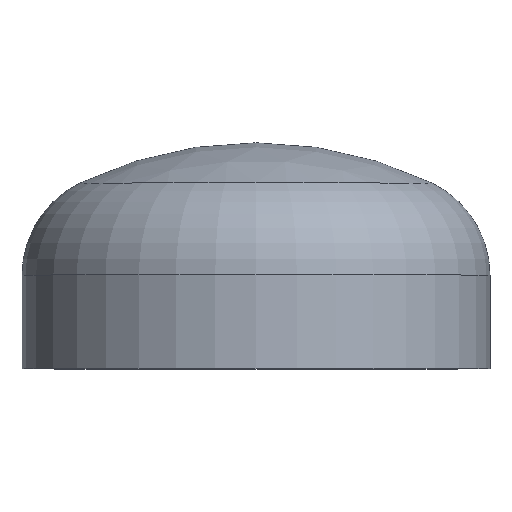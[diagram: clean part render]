
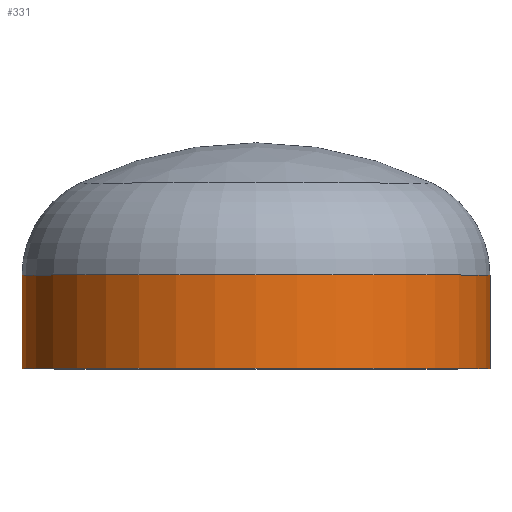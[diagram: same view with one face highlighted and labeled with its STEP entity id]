
A CAD part, top view. The second image highlights one B-rep face of the part: STEP entity #331.
In plain terms, the highlighted cylindrical face has radius 300 mm (diameter 600 mm), a partial arc.
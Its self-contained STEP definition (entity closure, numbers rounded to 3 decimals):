
#1 = VERTEX_POINT ( 'NONE', #174 ) ;
#12 = VERTEX_POINT ( 'NONE', #324 ) ;
#15 = DIRECTION ( 'NONE',  ( 1., 0., 0. ) ) ;
#16 = AXIS2_PLACEMENT_3D ( 'NONE', #336, #264, #99 ) ;
#35 = AXIS2_PLACEMENT_3D ( 'NONE', #329, #210, #15 ) ;
#40 = ORIENTED_EDGE ( 'NONE', *, *, #139, .T. ) ;
#41 = EDGE_CURVE ( 'NONE', #325, #58, #81, .T. ) ;
#51 = LINE ( 'NONE', #158, #349 ) ;
#57 = ORIENTED_EDGE ( 'NONE', *, *, #389, .T. ) ;
#58 = VERTEX_POINT ( 'NONE', #198 ) ;
#81 = LINE ( 'NONE', #322, #369 ) ;
#87 = AXIS2_PLACEMENT_3D ( 'NONE', #206, #390, #236 ) ;
#99 = DIRECTION ( 'NONE',  ( 1., 0., 0. ) ) ;
#105 = FACE_OUTER_BOUND ( 'NONE', #262, .T. ) ;
#120 = DIRECTION ( 'NONE',  ( 0., -1., 0. ) ) ;
#139 = EDGE_CURVE ( 'NONE', #325, #1, #339, .T. ) ;
#144 = ORIENTED_EDGE ( 'NONE', *, *, #383, .F. ) ;
#158 = CARTESIAN_POINT ( 'NONE',  ( -300., 0., 0. ) ) ;
#174 = CARTESIAN_POINT ( 'NONE',  ( -300., 120., 0. ) ) ;
#195 = ORIENTED_EDGE ( 'NONE', *, *, #41, .F. ) ;
#198 = CARTESIAN_POINT ( 'NONE',  ( 300., 0., 0. ) ) ;
#206 = CARTESIAN_POINT ( 'NONE',  ( 0., 120., 0. ) ) ;
#210 = DIRECTION ( 'NONE',  ( 0., -1., 0. ) ) ;
#235 = CIRCLE ( 'NONE', #16, 300. ) ;
#236 = DIRECTION ( 'NONE',  ( 1., 0., 0. ) ) ;
#243 = CYLINDRICAL_SURFACE ( 'NONE', #35, 300. ) ;
#262 = EDGE_LOOP ( 'NONE', ( #40, #57, #144, #195 ) ) ;
#263 = DIRECTION ( 'NONE',  ( 0., -1., 0. ) ) ;
#264 = DIRECTION ( 'NONE',  ( 0., -1., 0. ) ) ;
#322 = CARTESIAN_POINT ( 'NONE',  ( 300., 0., 0. ) ) ;
#324 = CARTESIAN_POINT ( 'NONE',  ( -300., 0., 0. ) ) ;
#325 = VERTEX_POINT ( 'NONE', #364 ) ;
#329 = CARTESIAN_POINT ( 'NONE',  ( 0., 0., 0. ) ) ;
#331 = ADVANCED_FACE ( 'NONE', ( #105 ), #243, .T. ) ;
#336 = CARTESIAN_POINT ( 'NONE',  ( 0., 0., 0. ) ) ;
#339 = CIRCLE ( 'NONE', #87, 300. ) ;
#349 = VECTOR ( 'NONE', #263, 1000. ) ;
#364 = CARTESIAN_POINT ( 'NONE',  ( 300., 120., 0. ) ) ;
#369 = VECTOR ( 'NONE', #120, 1000. ) ;
#383 = EDGE_CURVE ( 'NONE', #58, #12, #235, .T. ) ;
#389 = EDGE_CURVE ( 'NONE', #1, #12, #51, .T. ) ;
#390 = DIRECTION ( 'NONE',  ( 0., -1., 0. ) ) ;
